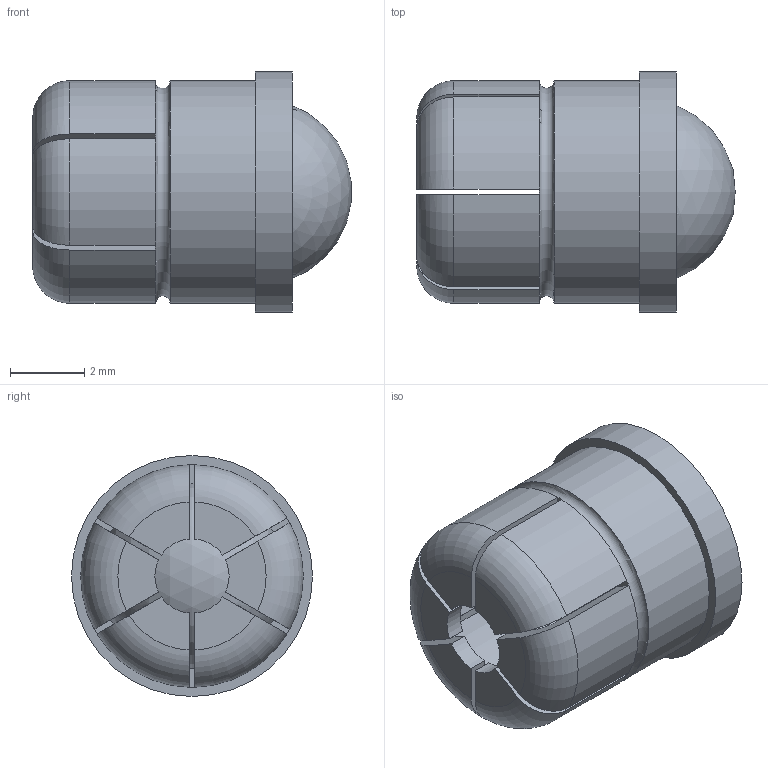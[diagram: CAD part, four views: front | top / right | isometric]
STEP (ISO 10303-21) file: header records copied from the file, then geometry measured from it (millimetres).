
FILE_DESCRIPTION( ( 'STEP AP203' ), '1' );
FILE_NAME( 'C:/Temp/Ganter_Step_05_03_2020/data/3_1/gn_614_5/Spring plunger GN 614.5-6-KD (deactivated).stp', '2020-03-12T09:12:48', ( 'License CC BY-ND 4.0' ), ( 'CADENAS' ), ' ', 'PARTsolutions', ' ' );
FILE_SCHEMA( ( 'CONFIG_CONTROL_DESIGN' ) );
Length unit declared in the file: millimetre
Products named in the file (1): _Spring plunger GN 614.5-6-KD (deactivated)
Bounding box: 8.58 x 6.5 x 6.5 mm (x, y, z)
Volume: 133.9 mm3; surface area: 374 mm2
Topology: 1 solids, 1 shells, 63 faces, 165 edges, 106 vertices
Faces by surface type: plane 32, cylinder 16, torus 13, sphere 2
Full cylindrical faces by diameter (mm): 4.98 x2, 6 x1, 6.5 x1
Entity records: 2044 total; most frequent: CARTESIAN_POINT 480, DIRECTION 322, ORIENTED_EDGE 314, EDGE_CURVE 157, AXIS2_PLACEMENT_3D 125, VERTEX_POINT 103, LINE 72, VECTOR 72
